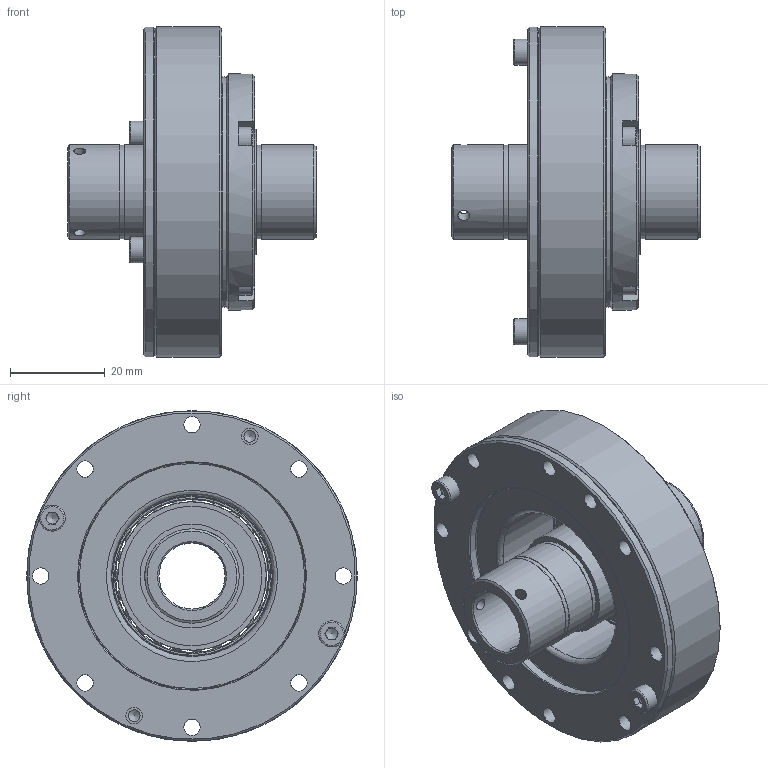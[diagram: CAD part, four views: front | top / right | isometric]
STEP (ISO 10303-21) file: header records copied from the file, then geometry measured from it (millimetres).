
FILE_DESCRIPTION (( 'STEP AP203' ), '1' );
FILE_NAME ('LHS-14-XXX-C-III-ST.STEP', '2025-01-07T05:55:34', ( '' ), ( '' ), 'SwSTEP 2.0', 'SolidWorks 2023', '' );
FILE_SCHEMA (( 'CONFIG_CONTROL_DESIGN' ));
Length unit declared in the file: metre
Products named in the file (1): LHS-14-XXX-C-III-ST
Bounding box: 52.5 x 70 x 70 mm (x, y, z)
Volume: 56643.1 mm3; surface area: 50095.5 mm2
Topology: 39 solids, 39 shells, 467 faces, 1134 edges, 730 vertices
Faces by surface type: plane 195, cylinder 168, cone 54, bspline 50
Full cylindrical faces by diameter (mm): 2.5 x23, 3 x6, 3.5 x24, 3.7 x8, 5.5 x6, 14 x2, 14.5 x1, 19.8 x3, 20 x5, 22 x2, 24.1 x1, 25 x1, 25.07 x1, 26.5 x2, 26.707 x2, 27.6 x1, 29.5 x1, 31.4 x1, 32.36 x2, 33.92 x1, 34.088 x1, 34.588 x1, 34.7 x1, 35.499 x1, 38 x2, 38.01 x1, 45.75 x1, 48 x1, 49 x2, 49.75 x2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
Entity records: 14882 total; most frequent: CARTESIAN_POINT 5110, DIRECTION 2094, ORIENTED_EDGE 1650, AXIS2_PLACEMENT_3D 913, EDGE_CURVE 825, EDGE_LOOP 770, VERTEX_POINT 641, FACE_OUTER_BOUND 589
